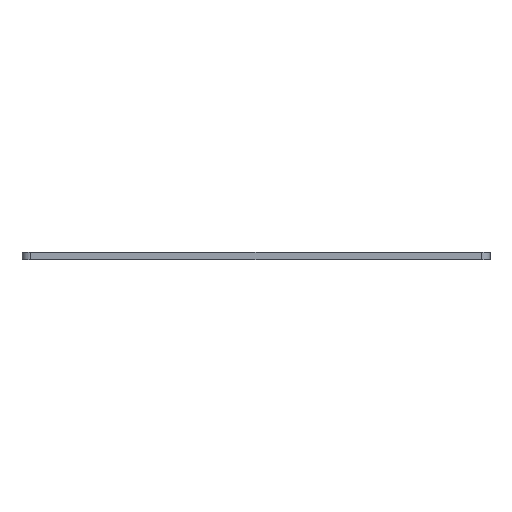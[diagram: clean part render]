
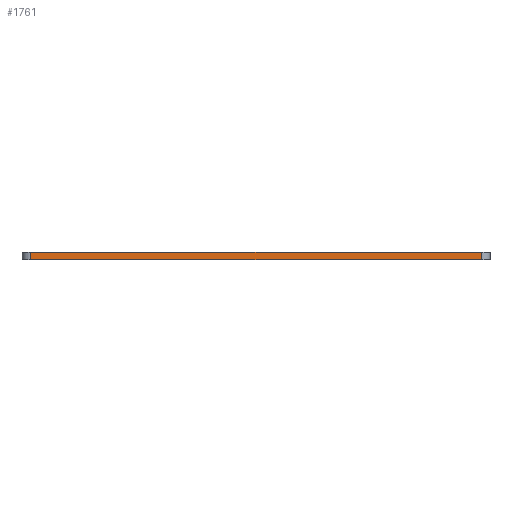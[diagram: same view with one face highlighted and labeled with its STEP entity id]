
A CAD part, left-side view. The second image highlights one B-rep face of the part: STEP entity #1761.
In plain terms, the highlighted planar face has unit normal (-1, 0, 0).
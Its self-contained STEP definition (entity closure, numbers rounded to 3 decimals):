
#43 = PLANE('',#44);
#44 = AXIS2_PLACEMENT_3D('',#45,#46,#47);
#45 = CARTESIAN_POINT('',(53.3,53.3,1.6));
#46 = DIRECTION('',(0.,0.,-1.));
#47 = DIRECTION('',(-1.,0.,0.));
#182 = VERTEX_POINT('',#183);
#183 = CARTESIAN_POINT('',(-53.3,-51.3,1.6));
#202 = CYLINDRICAL_SURFACE('',#203,2.);
#203 = AXIS2_PLACEMENT_3D('',#204,#205,#206);
#204 = CARTESIAN_POINT('',(-51.3,-51.3,0.));
#205 = DIRECTION('',(0.,0.,1.));
#206 = DIRECTION('',(-1.,0.,0.));
#214 = EDGE_CURVE('',#215,#182,#217,.T.);
#215 = VERTEX_POINT('',#216);
#216 = CARTESIAN_POINT('',(-53.3,51.3,1.6));
#217 = SURFACE_CURVE('',#218,(#222,#229),.PCURVE_S1.);
#218 = LINE('',#219,#220);
#219 = CARTESIAN_POINT('',(-53.3,53.3,1.6));
#220 = VECTOR('',#221,1.);
#221 = DIRECTION('',(0.,-1.,0.));
#222 = PCURVE('',#43,#223);
#223 = DEFINITIONAL_REPRESENTATION('',(#224),#228);
#224 = LINE('',#225,#226);
#225 = CARTESIAN_POINT('',(106.6,0.));
#226 = VECTOR('',#227,1.);
#227 = DIRECTION('',(0.,-1.));
#228 = ( GEOMETRIC_REPRESENTATION_CONTEXT(2) 
PARAMETRIC_REPRESENTATION_CONTEXT() REPRESENTATION_CONTEXT('2D SPACE',''
  ) );
#229 = PCURVE('',#230,#235);
#230 = PLANE('',#231);
#231 = AXIS2_PLACEMENT_3D('',#232,#233,#234);
#232 = CARTESIAN_POINT('',(-53.3,53.3,0.));
#233 = DIRECTION('',(1.,0.,0.));
#234 = DIRECTION('',(0.,-1.,0.));
#235 = DEFINITIONAL_REPRESENTATION('',(#236),#240);
#236 = LINE('',#237,#238);
#237 = CARTESIAN_POINT('',(0.,-1.6));
#238 = VECTOR('',#239,1.);
#239 = DIRECTION('',(1.,0.));
#240 = ( GEOMETRIC_REPRESENTATION_CONTEXT(2) 
PARAMETRIC_REPRESENTATION_CONTEXT() REPRESENTATION_CONTEXT('2D SPACE',''
  ) );
#261 = CYLINDRICAL_SURFACE('',#262,2.);
#262 = AXIS2_PLACEMENT_3D('',#263,#264,#265);
#263 = CARTESIAN_POINT('',(-51.3,51.3,0.));
#264 = DIRECTION('',(0.,0.,1.));
#265 = DIRECTION('',(0.,1.,0.));
#1554 = PLANE('',#1555);
#1555 = AXIS2_PLACEMENT_3D('',#1556,#1557,#1558);
#1556 = CARTESIAN_POINT('',(53.3,53.3,0.));
#1557 = DIRECTION('',(0.,0.,-1.));
#1558 = DIRECTION('',(-1.,0.,0.));
#1663 = VERTEX_POINT('',#1664);
#1664 = CARTESIAN_POINT('',(-53.3,51.3,0.));
#1690 = EDGE_CURVE('',#1663,#215,#1691,.T.);
#1691 = SURFACE_CURVE('',#1692,(#1696,#1703),.PCURVE_S1.);
#1692 = LINE('',#1693,#1694);
#1693 = CARTESIAN_POINT('',(-53.3,51.3,0.));
#1694 = VECTOR('',#1695,1.);
#1695 = DIRECTION('',(0.,0.,1.));
#1696 = PCURVE('',#261,#1697);
#1697 = DEFINITIONAL_REPRESENTATION('',(#1698),#1702);
#1698 = LINE('',#1699,#1700);
#1699 = CARTESIAN_POINT('',(1.571,0.));
#1700 = VECTOR('',#1701,1.);
#1701 = DIRECTION('',(0.,1.));
#1702 = ( GEOMETRIC_REPRESENTATION_CONTEXT(2) 
PARAMETRIC_REPRESENTATION_CONTEXT() REPRESENTATION_CONTEXT('2D SPACE',''
  ) );
#1703 = PCURVE('',#230,#1704);
#1704 = DEFINITIONAL_REPRESENTATION('',(#1705),#1709);
#1705 = LINE('',#1706,#1707);
#1706 = CARTESIAN_POINT('',(2.,0.));
#1707 = VECTOR('',#1708,1.);
#1708 = DIRECTION('',(0.,-1.));
#1709 = ( GEOMETRIC_REPRESENTATION_CONTEXT(2) 
PARAMETRIC_REPRESENTATION_CONTEXT() REPRESENTATION_CONTEXT('2D SPACE',''
  ) );
#1761 = ADVANCED_FACE('',(#1762),#230,.F.);
#1762 = FACE_BOUND('',#1763,.F.);
#1763 = EDGE_LOOP('',(#1764,#1787,#1788,#1789));
#1764 = ORIENTED_EDGE('',*,*,#1765,.F.);
#1765 = EDGE_CURVE('',#1663,#1766,#1768,.T.);
#1766 = VERTEX_POINT('',#1767);
#1767 = CARTESIAN_POINT('',(-53.3,-51.3,0.));
#1768 = SURFACE_CURVE('',#1769,(#1773,#1780),.PCURVE_S1.);
#1769 = LINE('',#1770,#1771);
#1770 = CARTESIAN_POINT('',(-53.3,53.3,0.));
#1771 = VECTOR('',#1772,1.);
#1772 = DIRECTION('',(0.,-1.,0.));
#1773 = PCURVE('',#230,#1774);
#1774 = DEFINITIONAL_REPRESENTATION('',(#1775),#1779);
#1775 = LINE('',#1776,#1777);
#1776 = CARTESIAN_POINT('',(0.,0.));
#1777 = VECTOR('',#1778,1.);
#1778 = DIRECTION('',(1.,0.));
#1779 = ( GEOMETRIC_REPRESENTATION_CONTEXT(2) 
PARAMETRIC_REPRESENTATION_CONTEXT() REPRESENTATION_CONTEXT('2D SPACE',''
  ) );
#1780 = PCURVE('',#1554,#1781);
#1781 = DEFINITIONAL_REPRESENTATION('',(#1782),#1786);
#1782 = LINE('',#1783,#1784);
#1783 = CARTESIAN_POINT('',(106.6,0.));
#1784 = VECTOR('',#1785,1.);
#1785 = DIRECTION('',(0.,-1.));
#1786 = ( GEOMETRIC_REPRESENTATION_CONTEXT(2) 
PARAMETRIC_REPRESENTATION_CONTEXT() REPRESENTATION_CONTEXT('2D SPACE',''
  ) );
#1787 = ORIENTED_EDGE('',*,*,#1690,.T.);
#1788 = ORIENTED_EDGE('',*,*,#214,.T.);
#1789 = ORIENTED_EDGE('',*,*,#1790,.F.);
#1790 = EDGE_CURVE('',#1766,#182,#1791,.T.);
#1791 = SURFACE_CURVE('',#1792,(#1796,#1803),.PCURVE_S1.);
#1792 = LINE('',#1793,#1794);
#1793 = CARTESIAN_POINT('',(-53.3,-51.3,0.));
#1794 = VECTOR('',#1795,1.);
#1795 = DIRECTION('',(0.,0.,1.));
#1796 = PCURVE('',#230,#1797);
#1797 = DEFINITIONAL_REPRESENTATION('',(#1798),#1802);
#1798 = LINE('',#1799,#1800);
#1799 = CARTESIAN_POINT('',(104.6,-0.));
#1800 = VECTOR('',#1801,1.);
#1801 = DIRECTION('',(0.,-1.));
#1802 = ( GEOMETRIC_REPRESENTATION_CONTEXT(2) 
PARAMETRIC_REPRESENTATION_CONTEXT() REPRESENTATION_CONTEXT('2D SPACE',''
  ) );
#1803 = PCURVE('',#202,#1804);
#1804 = DEFINITIONAL_REPRESENTATION('',(#1805),#1809);
#1805 = LINE('',#1806,#1807);
#1806 = CARTESIAN_POINT('',(0.,0.));
#1807 = VECTOR('',#1808,1.);
#1808 = DIRECTION('',(0.,1.));
#1809 = ( GEOMETRIC_REPRESENTATION_CONTEXT(2) 
PARAMETRIC_REPRESENTATION_CONTEXT() REPRESENTATION_CONTEXT('2D SPACE',''
  ) );
